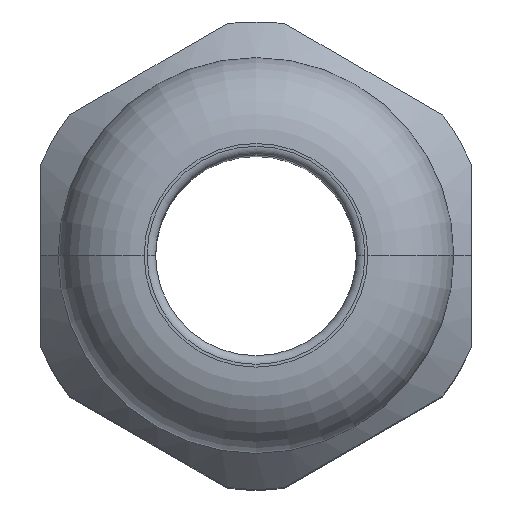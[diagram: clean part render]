
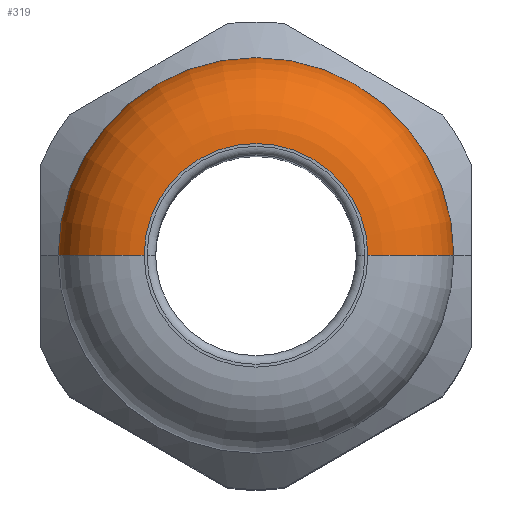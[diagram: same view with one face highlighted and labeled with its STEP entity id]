
A CAD part, top view. The second image highlights one B-rep face of the part: STEP entity #319.
In plain terms, the highlighted toroidal (fillet/blend) face has major radius 3.9 mm and minor radius 3 mm.
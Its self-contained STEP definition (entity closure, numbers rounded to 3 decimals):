
#55 = EDGE_CURVE ( 'NONE', #338, #73, #1085, .T. ) ;
#56 = ORIENTED_EDGE ( 'NONE', *, *, #57, .F. ) ;
#57 = EDGE_CURVE ( 'NONE', #73, #230, #1080, .T. ) ;
#58 = ORIENTED_EDGE ( 'NONE', *, *, #55, .F. ) ;
#73 = VERTEX_POINT ( 'NONE', #1112 ) ;
#230 = VERTEX_POINT ( 'NONE', #1442 ) ;
#319 = ADVANCED_FACE ( 'NONE', ( #1420 ), #1419, .T. ) ;
#320 = EDGE_LOOP ( 'NONE', ( #336, #340, #56, #58 ) ) ;
#336 = ORIENTED_EDGE ( 'NONE', *, *, #337, .T. ) ;
#337 = EDGE_CURVE ( 'NONE', #338, #339, #1771, .T. ) ;
#338 = VERTEX_POINT ( 'NONE', #1644 ) ;
#339 = VERTEX_POINT ( 'NONE', #1643 ) ;
#340 = ORIENTED_EDGE ( 'NONE', *, *, #341, .T. ) ;
#341 = EDGE_CURVE ( 'NONE', #339, #230, #1726, .T. ) ;
#1076 = DIRECTION ( 'NONE',  ( -1., 0., 0. ) ) ;
#1077 = DIRECTION ( 'NONE',  ( 0., 0., -1. ) ) ;
#1078 = CARTESIAN_POINT ( 'NONE',  ( 0., 0., 28. ) ) ;
#1079 = AXIS2_PLACEMENT_3D ( 'NONE', #1078, #1077, #1076 ) ;
#1080 = CIRCLE ( 'NONE', #1079, 6.9 ) ;
#1081 = DIRECTION ( 'NONE',  ( 0., 0., -1. ) ) ;
#1082 = DIRECTION ( 'NONE',  ( 0., -1., 0. ) ) ;
#1083 = CARTESIAN_POINT ( 'NONE',  ( -3.9, 0., 28. ) ) ;
#1084 = AXIS2_PLACEMENT_3D ( 'NONE', #1083, #1082, #1081 ) ;
#1085 = CIRCLE ( 'NONE', #1084, 3. ) ;
#1112 = CARTESIAN_POINT ( 'NONE',  ( -6.9, 0., 28. ) ) ;
#1415 = DIRECTION ( 'NONE',  ( -1., 0., 0. ) ) ;
#1416 = DIRECTION ( 'NONE',  ( 0., 0., -1. ) ) ;
#1417 = CARTESIAN_POINT ( 'NONE',  ( 0., 0., 28. ) ) ;
#1418 = AXIS2_PLACEMENT_3D ( 'NONE', #1417, #1416, #1415 ) ;
#1419 = TOROIDAL_SURFACE ( 'NONE', #1418, 3.9, 3. ) ;
#1420 = FACE_OUTER_BOUND ( 'NONE', #320, .T. ) ;
#1442 = CARTESIAN_POINT ( 'NONE',  ( 6.9, 0., 28. ) ) ;
#1642 = CARTESIAN_POINT ( 'NONE',  ( 3.9, 0., 28. ) ) ;
#1643 = CARTESIAN_POINT ( 'NONE',  ( 3.9, 0., 31. ) ) ;
#1644 = CARTESIAN_POINT ( 'NONE',  ( -3.9, 0., 31. ) ) ;
#1645 = DIRECTION ( 'NONE',  ( -1., 0., 0. ) ) ;
#1723 = DIRECTION ( 'NONE',  ( -1., 0., 0. ) ) ;
#1724 = DIRECTION ( 'NONE',  ( 0., 1., 0. ) ) ;
#1725 = AXIS2_PLACEMENT_3D ( 'NONE', #1642, #1724, #1723 ) ;
#1726 = CIRCLE ( 'NONE', #1725, 3. ) ;
#1768 = DIRECTION ( 'NONE',  ( 0., 0., -1. ) ) ;
#1769 = CARTESIAN_POINT ( 'NONE',  ( 0., 0., 31. ) ) ;
#1770 = AXIS2_PLACEMENT_3D ( 'NONE', #1769, #1768, #1645 ) ;
#1771 = CIRCLE ( 'NONE', #1770, 3.9 ) ;
